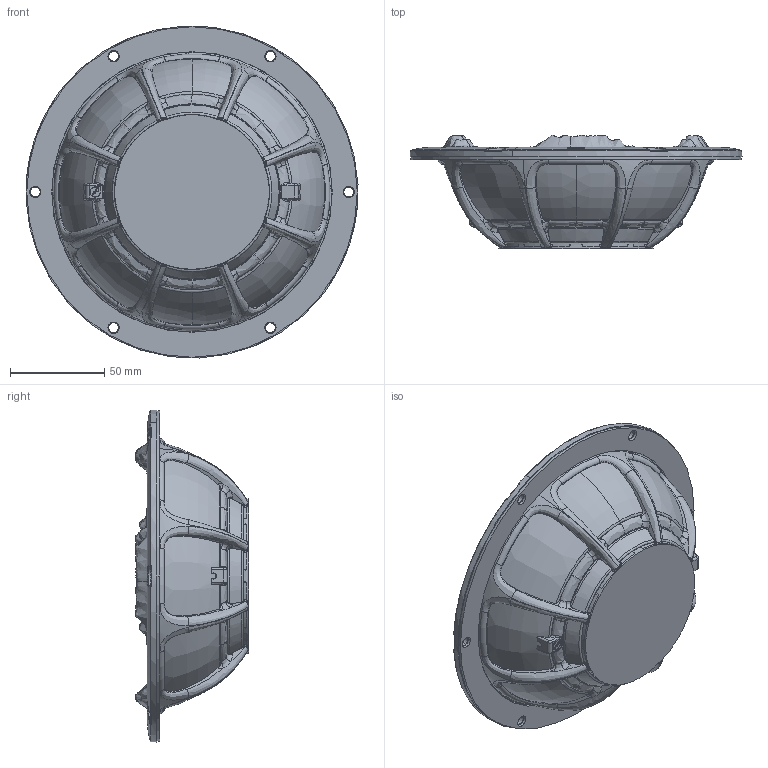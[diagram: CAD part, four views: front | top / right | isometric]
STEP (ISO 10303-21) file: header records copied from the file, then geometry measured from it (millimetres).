
FILE_DESCRIPTION (( 'STEP AP203' ), '1' );
FILE_NAME ('DU87-010-01.STEP', '2023-08-23T12:58:40', ( '' ), ( '' ), 'SwSTEP 2.0', 'SolidWorks 2022', '' );
FILE_SCHEMA (( 'CONFIG_CONTROL_DESIGN' ));
Products named in the file (1): DU87-010-01
Bounding box: 175.83 x 60.05 x 175.83 mm (x, y, z)
Volume: 584446.5 mm3; surface area: 76256.6 mm2
Topology: 1 solids, 1 shells, 927 faces, 2491 edges, 1558 vertices
Faces by surface type: bspline 470, torus 136, cylinder 121, plane 103, cone 80, sphere 17
Entity records: 356836 total; most frequent: CARTESIAN_POINT 338159, ORIENTED_EDGE 4960, EDGE_CURVE 2480, DIRECTION 2234, B_SPLINE_CURVE_WITH_KNOTS 1698, VERTEX_POINT 1556, AXIS2_PLACEMENT_3D 1010, EDGE_LOOP 960
